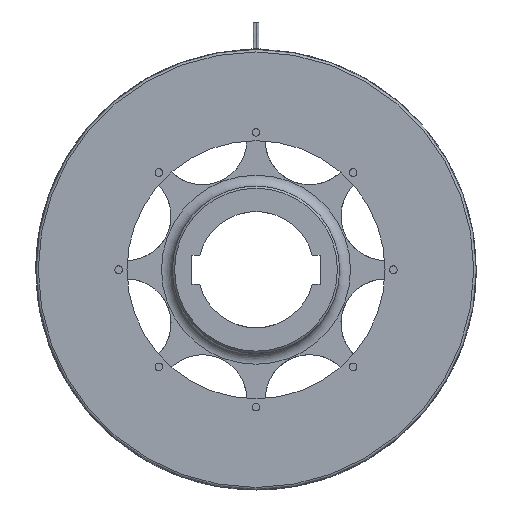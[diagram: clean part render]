
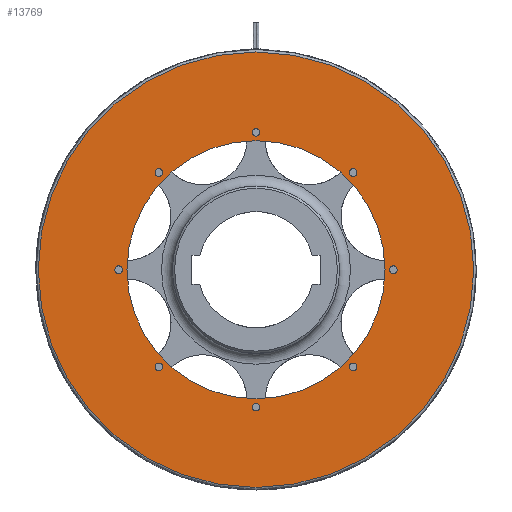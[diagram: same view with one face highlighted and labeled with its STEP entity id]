
A CAD part, left-side view. The second image highlights one B-rep face of the part: STEP entity #13769.
In plain terms, the highlighted planar face has unit normal (-1, 0, 0).
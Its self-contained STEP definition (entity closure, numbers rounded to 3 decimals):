
#150=FACE_BOUND('',#1309,.T.);
#151=FACE_BOUND('',#1310,.T.);
#152=FACE_BOUND('',#1311,.T.);
#153=FACE_BOUND('',#1312,.T.);
#154=FACE_BOUND('',#1313,.T.);
#155=FACE_BOUND('',#1314,.T.);
#156=FACE_BOUND('',#1315,.T.);
#157=FACE_BOUND('',#1316,.T.);
#158=FACE_BOUND('',#1317,.T.);
#321=PLANE('',#14522);
#611=FACE_OUTER_BOUND('',#1308,.T.);
#1308=EDGE_LOOP('',(#8731,#8732));
#1309=EDGE_LOOP('',(#8733,#8734));
#1310=EDGE_LOOP('',(#8735,#8736));
#1311=EDGE_LOOP('',(#8737,#8738));
#1312=EDGE_LOOP('',(#8739,#8740));
#1313=EDGE_LOOP('',(#8741,#8742));
#1314=EDGE_LOOP('',(#8743,#8744));
#1315=EDGE_LOOP('',(#8745,#8746));
#1316=EDGE_LOOP('',(#8747,#8748));
#1317=EDGE_LOOP('',(#8749,#8750));
#2211=CIRCLE('',#14523,299.5);
#2212=CIRCLE('',#14524,299.5);
#2213=CIRCLE('',#14525,5.25);
#2214=CIRCLE('',#14526,5.25);
#2215=CIRCLE('',#14527,5.25);
#2216=CIRCLE('',#14528,5.25);
#2217=CIRCLE('',#14529,5.25);
#2218=CIRCLE('',#14530,5.25);
#2219=CIRCLE('',#14531,5.25);
#2220=CIRCLE('',#14532,5.25);
#2221=CIRCLE('',#14533,5.25);
#2222=CIRCLE('',#14534,5.25);
#2223=CIRCLE('',#14535,5.25);
#2224=CIRCLE('',#14536,5.25);
#2225=CIRCLE('',#14537,5.25);
#2226=CIRCLE('',#14538,5.25);
#2227=CIRCLE('',#14539,5.25);
#2228=CIRCLE('',#14540,5.25);
#2229=CIRCLE('',#14541,177.5);
#2230=CIRCLE('',#14542,177.5);
#5092=VERTEX_POINT('',#21419);
#5093=VERTEX_POINT('',#21420);
#5094=VERTEX_POINT('',#21423);
#5095=VERTEX_POINT('',#21424);
#5096=VERTEX_POINT('',#21427);
#5097=VERTEX_POINT('',#21428);
#5098=VERTEX_POINT('',#21431);
#5099=VERTEX_POINT('',#21432);
#5100=VERTEX_POINT('',#21435);
#5101=VERTEX_POINT('',#21436);
#5102=VERTEX_POINT('',#21439);
#5103=VERTEX_POINT('',#21440);
#5104=VERTEX_POINT('',#21443);
#5105=VERTEX_POINT('',#21444);
#5106=VERTEX_POINT('',#21447);
#5107=VERTEX_POINT('',#21448);
#5108=VERTEX_POINT('',#21451);
#5109=VERTEX_POINT('',#21452);
#5110=VERTEX_POINT('',#21455);
#5111=VERTEX_POINT('',#21456);
#6544=EDGE_CURVE('',#5092,#5093,#2211,.T.);
#6545=EDGE_CURVE('',#5093,#5092,#2212,.T.);
#6546=EDGE_CURVE('',#5094,#5095,#2213,.T.);
#6547=EDGE_CURVE('',#5095,#5094,#2214,.T.);
#6548=EDGE_CURVE('',#5096,#5097,#2215,.T.);
#6549=EDGE_CURVE('',#5097,#5096,#2216,.T.);
#6550=EDGE_CURVE('',#5098,#5099,#2217,.T.);
#6551=EDGE_CURVE('',#5099,#5098,#2218,.T.);
#6552=EDGE_CURVE('',#5100,#5101,#2219,.T.);
#6553=EDGE_CURVE('',#5101,#5100,#2220,.T.);
#6554=EDGE_CURVE('',#5102,#5103,#2221,.T.);
#6555=EDGE_CURVE('',#5103,#5102,#2222,.T.);
#6556=EDGE_CURVE('',#5104,#5105,#2223,.T.);
#6557=EDGE_CURVE('',#5105,#5104,#2224,.T.);
#6558=EDGE_CURVE('',#5106,#5107,#2225,.T.);
#6559=EDGE_CURVE('',#5107,#5106,#2226,.T.);
#6560=EDGE_CURVE('',#5108,#5109,#2227,.T.);
#6561=EDGE_CURVE('',#5109,#5108,#2228,.T.);
#6562=EDGE_CURVE('',#5110,#5111,#2229,.T.);
#6563=EDGE_CURVE('',#5111,#5110,#2230,.T.);
#8731=ORIENTED_EDGE('',*,*,#6544,.F.);
#8732=ORIENTED_EDGE('',*,*,#6545,.F.);
#8733=ORIENTED_EDGE('',*,*,#6546,.T.);
#8734=ORIENTED_EDGE('',*,*,#6547,.T.);
#8735=ORIENTED_EDGE('',*,*,#6548,.T.);
#8736=ORIENTED_EDGE('',*,*,#6549,.T.);
#8737=ORIENTED_EDGE('',*,*,#6550,.T.);
#8738=ORIENTED_EDGE('',*,*,#6551,.T.);
#8739=ORIENTED_EDGE('',*,*,#6552,.T.);
#8740=ORIENTED_EDGE('',*,*,#6553,.T.);
#8741=ORIENTED_EDGE('',*,*,#6554,.T.);
#8742=ORIENTED_EDGE('',*,*,#6555,.T.);
#8743=ORIENTED_EDGE('',*,*,#6556,.T.);
#8744=ORIENTED_EDGE('',*,*,#6557,.T.);
#8745=ORIENTED_EDGE('',*,*,#6558,.T.);
#8746=ORIENTED_EDGE('',*,*,#6559,.T.);
#8747=ORIENTED_EDGE('',*,*,#6560,.T.);
#8748=ORIENTED_EDGE('',*,*,#6561,.T.);
#8749=ORIENTED_EDGE('',*,*,#6562,.F.);
#8750=ORIENTED_EDGE('',*,*,#6563,.F.);
#13769=ADVANCED_FACE('',(#611,#150,#151,#152,#153,#154,#155,#156,#157,#158),
#321,.T.);
#14522=AXIS2_PLACEMENT_3D('',#21418,#16544,#16545);
#14523=AXIS2_PLACEMENT_3D('',#21421,#16546,#16547);
#14524=AXIS2_PLACEMENT_3D('',#21422,#16548,#16549);
#14525=AXIS2_PLACEMENT_3D('',#21425,#16550,#16551);
#14526=AXIS2_PLACEMENT_3D('',#21426,#16552,#16553);
#14527=AXIS2_PLACEMENT_3D('',#21429,#16554,#16555);
#14528=AXIS2_PLACEMENT_3D('',#21430,#16556,#16557);
#14529=AXIS2_PLACEMENT_3D('',#21433,#16558,#16559);
#14530=AXIS2_PLACEMENT_3D('',#21434,#16560,#16561);
#14531=AXIS2_PLACEMENT_3D('',#21437,#16562,#16563);
#14532=AXIS2_PLACEMENT_3D('',#21438,#16564,#16565);
#14533=AXIS2_PLACEMENT_3D('',#21441,#16566,#16567);
#14534=AXIS2_PLACEMENT_3D('',#21442,#16568,#16569);
#14535=AXIS2_PLACEMENT_3D('',#21445,#16570,#16571);
#14536=AXIS2_PLACEMENT_3D('',#21446,#16572,#16573);
#14537=AXIS2_PLACEMENT_3D('',#21449,#16574,#16575);
#14538=AXIS2_PLACEMENT_3D('',#21450,#16576,#16577);
#14539=AXIS2_PLACEMENT_3D('',#21453,#16578,#16579);
#14540=AXIS2_PLACEMENT_3D('',#21454,#16580,#16581);
#14541=AXIS2_PLACEMENT_3D('',#21457,#16582,#16583);
#14542=AXIS2_PLACEMENT_3D('',#21458,#16584,#16585);
#16544=DIRECTION('center_axis',(-1.,0.,0.));
#16545=DIRECTION('ref_axis',(0.,0.,
1.));
#16546=DIRECTION('center_axis',(1.,0.,0.));
#16547=DIRECTION('ref_axis',(0.,-1.,0.));
#16548=DIRECTION('center_axis',(1.,0.,0.));
#16549=DIRECTION('ref_axis',(0.,-1.,0.));
#16550=DIRECTION('center_axis',(1.,0.,0.));
#16551=DIRECTION('ref_axis',(0.,0.,
1.));
#16552=DIRECTION('center_axis',(1.,0.,0.));
#16553=DIRECTION('ref_axis',(0.,0.,
1.));
#16554=DIRECTION('center_axis',(1.,0.,0.));
#16555=DIRECTION('ref_axis',(0.,0.,
1.));
#16556=DIRECTION('center_axis',(1.,0.,0.));
#16557=DIRECTION('ref_axis',(0.,0.,
1.));
#16558=DIRECTION('center_axis',(1.,0.,0.));
#16559=DIRECTION('ref_axis',(0.,0.,
1.));
#16560=DIRECTION('center_axis',(1.,0.,0.));
#16561=DIRECTION('ref_axis',(0.,0.,
1.));
#16562=DIRECTION('center_axis',(1.,0.,0.));
#16563=DIRECTION('ref_axis',(0.,0.,
1.));
#16564=DIRECTION('center_axis',(1.,0.,0.));
#16565=DIRECTION('ref_axis',(0.,0.,
1.));
#16566=DIRECTION('center_axis',(1.,0.,0.));
#16567=DIRECTION('ref_axis',(0.,0.,
1.));
#16568=DIRECTION('center_axis',(1.,0.,0.));
#16569=DIRECTION('ref_axis',(0.,0.,
1.));
#16570=DIRECTION('center_axis',(1.,0.,0.));
#16571=DIRECTION('ref_axis',(0.,0.,
1.));
#16572=DIRECTION('center_axis',(1.,0.,0.));
#16573=DIRECTION('ref_axis',(0.,0.,
1.));
#16574=DIRECTION('center_axis',(1.,0.,0.));
#16575=DIRECTION('ref_axis',(0.,0.,
1.));
#16576=DIRECTION('center_axis',(1.,0.,0.));
#16577=DIRECTION('ref_axis',(0.,0.,
1.));
#16578=DIRECTION('center_axis',(1.,0.,0.));
#16579=DIRECTION('ref_axis',(0.,0.,
1.));
#16580=DIRECTION('center_axis',(1.,0.,0.));
#16581=DIRECTION('ref_axis',(0.,0.,
1.));
#16582=DIRECTION('center_axis',(-1.,0.,0.));
#16583=DIRECTION('ref_axis',(0.,1.,0.));
#16584=DIRECTION('center_axis',(-1.,0.,0.));
#16585=DIRECTION('ref_axis',(0.,1.,0.));
#21418=CARTESIAN_POINT('Origin',(-39.2,240.,0.));
#21419=CARTESIAN_POINT('',(-39.2,299.5,0.));
#21420=CARTESIAN_POINT('',(-39.2,0.,-299.5));
#21421=CARTESIAN_POINT('Origin',(-39.2,0.,
0.));
#21422=CARTESIAN_POINT('Origin',(-39.2,0.,
0.));
#21423=CARTESIAN_POINT('',(-39.2,-189.,5.25));
#21424=CARTESIAN_POINT('',(-39.2,-189.,-5.25));
#21425=CARTESIAN_POINT('Origin',(-39.2,-189.,0.));
#21426=CARTESIAN_POINT('Origin',(-39.2,-189.,0.));
#21427=CARTESIAN_POINT('',(-39.2,0.,-183.75));
#21428=CARTESIAN_POINT('',(-39.2,0.,-194.25));
#21429=CARTESIAN_POINT('Origin',(-39.2,0.,
-189.));
#21430=CARTESIAN_POINT('Origin',(-39.2,0.,
-189.));
#21431=CARTESIAN_POINT('',(-39.2,189.,5.25));
#21432=CARTESIAN_POINT('',(-39.2,189.,-5.25));
#21433=CARTESIAN_POINT('Origin',(-39.2,189.,0.));
#21434=CARTESIAN_POINT('Origin',(-39.2,189.,0.));
#21435=CARTESIAN_POINT('',(-39.2,0.,194.25));
#21436=CARTESIAN_POINT('',(-39.2,0.,183.75));
#21437=CARTESIAN_POINT('Origin',(-39.2,0.,
189.));
#21438=CARTESIAN_POINT('Origin',(-39.2,0.,
189.));
#21439=CARTESIAN_POINT('',(-39.2,133.643,138.893));
#21440=CARTESIAN_POINT('',(-39.2,133.643,128.393));
#21441=CARTESIAN_POINT('Origin',(-39.2,133.643,133.643));
#21442=CARTESIAN_POINT('Origin',(-39.2,133.643,133.643));
#21443=CARTESIAN_POINT('',(-39.2,133.643,-128.393));
#21444=CARTESIAN_POINT('',(-39.2,133.643,-138.893));
#21445=CARTESIAN_POINT('Origin',(-39.2,133.643,-133.643));
#21446=CARTESIAN_POINT('Origin',(-39.2,133.643,-133.643));
#21447=CARTESIAN_POINT('',(-39.2,-133.643,-128.393));
#21448=CARTESIAN_POINT('',(-39.2,-133.643,-138.893));
#21449=CARTESIAN_POINT('Origin',(-39.2,-133.643,-133.643));
#21450=CARTESIAN_POINT('Origin',(-39.2,-133.643,-133.643));
#21451=CARTESIAN_POINT('',(-39.2,-133.643,138.893));
#21452=CARTESIAN_POINT('',(-39.2,-133.643,128.393));
#21453=CARTESIAN_POINT('Origin',(-39.2,-133.643,133.643));
#21454=CARTESIAN_POINT('Origin',(-39.2,-133.643,133.643));
#21455=CARTESIAN_POINT('',(-39.2,177.5,0.));
#21456=CARTESIAN_POINT('',(-39.2,-177.5,0.));
#21457=CARTESIAN_POINT('Origin',(-39.2,0.,
0.));
#21458=CARTESIAN_POINT('Origin',(-39.2,0.,
0.));
